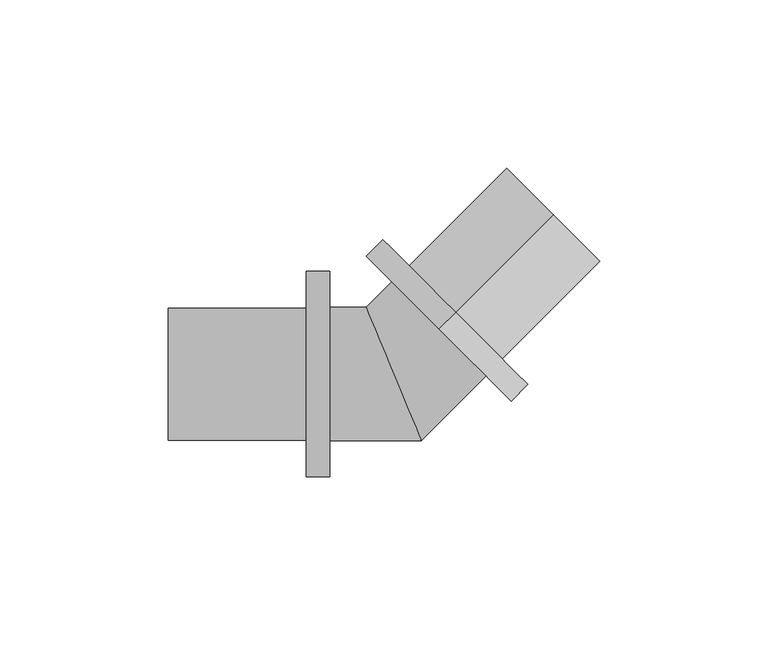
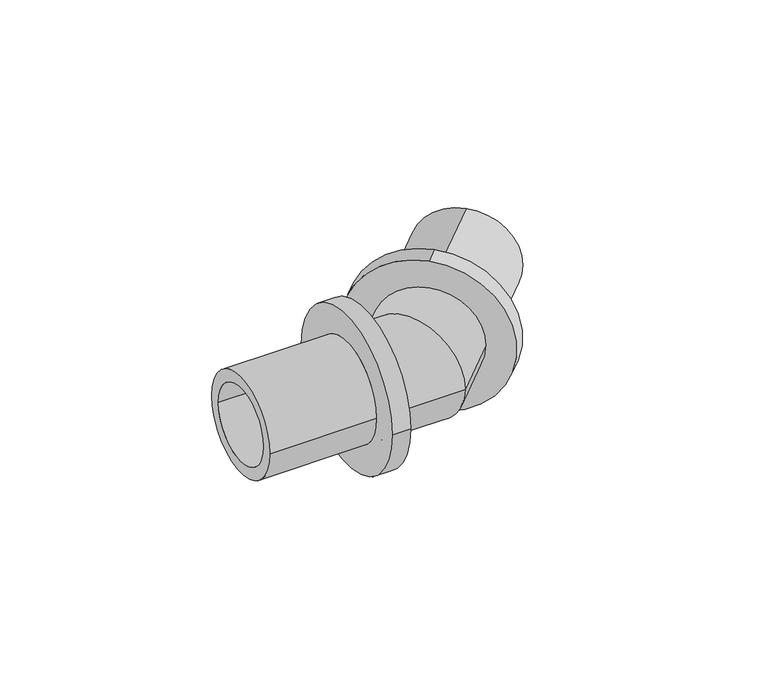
"""IFC4 building model written with IfcOpenShell, lengths in millimetres: pipe fitting geometry, RAUTITAN_Corner_LX : RTI LX C DN."""

from ifc_helpers import new_model, si_unit, frame, origin, place, context, project, spatial, polyline, circle_curve, ellipse_curve, source, transform, mapped, element, save
from ifc_brep_helpers import plane_surface, cylinder_surface, revolved_surface, advanced_brep


def pipe_fitting_f56030c5(model_context):
    return source(origin(), model_context, "Body", "AdvancedBrep", [
        advanced_brep(
        [(18.3847763, 18.3847763, 30.5), (18.3847763, 18.3847763, -30.5), (13.4350288, 13.4350288, -30.5), (13.4350288, 13.4350288, 30.5), (47.3761543, 47.3761543, 19.6), (47.3761543, 47.3761543, -19.6), (18.3847763, 18.3847763, -19.6), (18.3847763, 18.3847763, 19.6), (13.4350288, 13.4350288, 15.0), (13.4350288, 13.4350288, -15.0), (47.3761543, 47.3761543, -15.0), (47.3761543, 47.3761543, 15.0)],
        [
            (0, 1, circle_curve(frame((18.3847763, 18.3847763, 0.0), z_axis=(-0.7071067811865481, -0.707106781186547, 0.0), x_axis=(0.0, 0.0, -1.0)), 30.5)),
            (1, 2),
            (2, 3, circle_curve(frame((13.4350288, 13.4350288, 0.0), z_axis=(0.7071067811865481, 0.707106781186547, 0.0), x_axis=(0.0, 0.0, -1.0)), 30.5)),
            (3, 0),
            (4, 5, circle_curve(frame((47.3761543, 47.3761543, 0.0), z_axis=(-0.7071067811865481, -0.707106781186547, 0.0), x_axis=(0.0, 0.0, -1.0)), 19.6)),
            (5, 6),
            (6, 7, circle_curve(frame((18.3847763, 18.3847763, 0.0), z_axis=(0.7071067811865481, 0.707106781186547, 0.0), x_axis=(0.0, 0.0, -1.0)), 19.6)),
            (7, 4),
            (8, 9, circle_curve(frame((13.4350288, 13.4350288, 0.0), z_axis=(-0.7071067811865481, -0.707106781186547, 0.0), x_axis=(0.0, 0.0, -1.0)), 15.0)),
            (9, 10),
            (10, 11, circle_curve(frame((47.3761543, 47.3761543, 0.0), z_axis=(0.7071067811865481, 0.707106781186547, 0.0), x_axis=(0.0, 0.0, -1.0)), 15.0)),
            (11, 8),
            (1, 0, circle_curve(frame((18.3847763, 18.3847763, 0.0), z_axis=(-0.7071067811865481, -0.707106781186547, 0.0), x_axis=(0.0, 0.0, 1.0)), 30.5)),
            (3, 2, circle_curve(frame((13.4350288, 13.4350288, 0.0), z_axis=(0.7071067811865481, 0.707106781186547, 0.0), x_axis=(0.0, 0.0, 1.0)), 30.5)),
            (6, 7, circle_curve(frame((18.3847763, 18.3847763, 0.0), z_axis=(-0.7071067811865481, -0.707106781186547, 0.0), x_axis=(0.0, 0.0, 1.0)), 19.6)),
            (5, 4, circle_curve(frame((47.3761543, 47.3761543, 0.0), z_axis=(-0.7071067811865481, -0.707106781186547, 0.0), x_axis=(0.0, 0.0, 1.0)), 19.6)),
            (10, 11, circle_curve(frame((47.3761543, 47.3761543, 0.0), z_axis=(-0.7071067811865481, -0.707106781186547, 0.0), x_axis=(0.0, 0.0, 1.0)), 15.0)),
            (9, 8, circle_curve(frame((13.4350288, 13.4350288, 0.0), z_axis=(-0.7071067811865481, -0.707106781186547, 0.0), x_axis=(0.0, 0.0, 1.0)), 15.0)),
        ],
        [
            cylinder_surface(frame((13.4350288, 13.4350288, 0.0), z_axis=(0.7071067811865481, 0.707106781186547, 0.0), x_axis=(0.0, 0.0, -1.0)), 30.5),
            cylinder_surface(frame((13.4350288, 13.4350288, 0.0), z_axis=(0.7071067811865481, 0.707106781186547, 0.0), x_axis=(0.0, 0.0, -1.0)), 19.6),
            revolved_surface(polyline([(47.37615430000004, 47.37615429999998, -15.0), (13.4350288, 13.4350288, -15.0)]), (13.4350288, 13.4350288, 0.0), (0.7071067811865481, 0.707106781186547, 0.0)),
            cylinder_surface(frame((13.4350288, 13.4350288, 0.0), z_axis=(0.7071067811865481, 0.707106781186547, 0.0), x_axis=(0.0, 0.0, 1.0)), 30.5),
            plane_surface(frame((18.3847763, 18.3847763, 0.0), z_axis=(0.7071067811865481, 0.707106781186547, 0.0), x_axis=(0.0, 0.0, 1.0))),
            cylinder_surface(frame((13.4350288, 13.4350288, 0.0), z_axis=(0.7071067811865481, 0.707106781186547, 0.0), x_axis=(0.0, 0.0, 1.0)), 19.6),
            plane_surface(frame((47.3761543, 47.3761543, 0.0), z_axis=(0.7071067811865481, 0.707106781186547, 0.0), x_axis=(0.0, 0.0, 1.0))),
            revolved_surface(polyline([(47.37615430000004, 47.37615429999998, 15.0), (13.4350288, 13.4350288, 15.0)]), (13.4350288, 13.4350288, 0.0), (0.7071067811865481, 0.707106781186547, 0.0)),
            plane_surface(frame((13.4350288, 13.4350288, 0.0), z_axis=(-0.7071067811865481, -0.707106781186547, 0.0), x_axis=(0.0, 0.0, 1.0))),
        ],
        [
            (0, [[1, 2, 3, 4]]),
            (1, [[5, 6, 7, 8]]),
            (2, [[9, 10, 11, 12]]),
            (3, [[13, -4, 14, -2]]),
            (4, [[-13, -1], [15, -7]]),
            (5, [[16, -8, -15, -6]]),
            (6, [[-16, -5], [17, -11]]),
            (7, [[18, -12, -17, -10]]),
            (8, [[-14, -3], [-18, -9]]),
        ],
    ),
        advanced_brep(
        [(-26.0, -30.5, 0.0), (-26.0, 30.5, 0.0), (-19.0, 30.5, 0.0), (-19.0, -30.5, 0.0), (-67.0, -19.6, 0.0), (-67.0, 19.6, 0.0), (-26.0, 19.6, 0.0), (-26.0, -19.6, 0.0), (-19.0, -15.0, 0.0), (-19.0, 15.0, 0.0), (-67.0, 15.0, 0.0), (-67.0, -15.0, 0.0)],
        [
            (0, 1, circle_curve(frame((-26.0, 0.0, 0.0), z_axis=(1.0, 0.0, 0.0), x_axis=(0.0, 1.0, 0.0)), 30.5)),
            (1, 2),
            (2, 3, circle_curve(frame((-19.0, 0.0, 0.0), z_axis=(-1.0, 0.0, 0.0), x_axis=(0.0, 1.0, 0.0)), 30.5)),
            (3, 0),
            (4, 5, circle_curve(frame((-67.0, 0.0, 0.0), z_axis=(1.0, 0.0, 0.0), x_axis=(0.0, 1.0, 0.0)), 19.6)),
            (5, 6),
            (6, 7, circle_curve(frame((-26.0, 0.0, 0.0), z_axis=(-1.0, 0.0, 0.0), x_axis=(0.0, 1.0, 0.0)), 19.6)),
            (7, 4),
            (8, 9, circle_curve(frame((-19.0, 0.0, 0.0), z_axis=(1.0, 0.0, 0.0), x_axis=(0.0, 1.0, 0.0)), 15.0)),
            (9, 10),
            (10, 11, circle_curve(frame((-67.0, 0.0, 0.0), z_axis=(-1.0, 0.0, 0.0), x_axis=(0.0, 1.0, 0.0)), 15.0)),
            (11, 8),
            (1, 0, circle_curve(frame((-26.0, 0.0, 0.0), z_axis=(1.0, 0.0, 0.0), x_axis=(0.0, -1.0, 0.0)), 30.5)),
            (3, 2, circle_curve(frame((-19.0, 0.0, 0.0), z_axis=(-1.0, 0.0, 0.0), x_axis=(0.0, -1.0, 0.0)), 30.5)),
            (6, 7, circle_curve(frame((-26.0, 0.0, 0.0), z_axis=(1.0, 0.0, 0.0), x_axis=(0.0, -1.0, 0.0)), 19.6)),
            (5, 4, circle_curve(frame((-67.0, 0.0, 0.0), z_axis=(1.0, 0.0, 0.0), x_axis=(0.0, -1.0, 0.0)), 19.6)),
            (10, 11, circle_curve(frame((-67.0, 0.0, 0.0), z_axis=(1.0, 0.0, 0.0), x_axis=(0.0, -1.0, 0.0)), 15.0)),
            (9, 8, circle_curve(frame((-19.0, 0.0, 0.0), z_axis=(1.0, 0.0, 0.0), x_axis=(0.0, -1.0, 0.0)), 15.0)),
        ],
        [
            cylinder_surface(frame((-19.0, 0.0, 0.0), z_axis=(-1.0, 0.0, 0.0), x_axis=(0.0, 1.0, 0.0)), 30.5),
            cylinder_surface(frame((-19.0, 0.0, 0.0), z_axis=(-1.0, 0.0, 0.0), x_axis=(0.0, 1.0, 0.0)), 19.6),
            revolved_surface(polyline([(-67.0, 15.0, 0.0), (-19.0, 15.0, 0.0)]), (-19.0, 0.0, 0.0), (-1.0, 0.0, 0.0)),
            cylinder_surface(frame((-19.0, 0.0, 0.0), z_axis=(-1.0, 0.0, 0.0), x_axis=(0.0, -1.0, 0.0)), 30.5),
            plane_surface(frame((-26.0, 0.0, 0.0), z_axis=(-1.0, 0.0, 0.0), x_axis=(0.0, -1.0, 0.0))),
            cylinder_surface(frame((-19.0, 0.0, 0.0), z_axis=(-1.0, 0.0, 0.0), x_axis=(0.0, -1.0, 0.0)), 19.6),
            plane_surface(frame((-67.0, 0.0, 0.0), z_axis=(-1.0, 0.0, 0.0), x_axis=(0.0, -1.0, 0.0))),
            revolved_surface(polyline([(-67.0, -15.0, 0.0), (-19.0, -15.0, 0.0)]), (-19.0, 0.0, 0.0), (-1.0, 0.0, 0.0)),
            plane_surface(frame((-19.0, 0.0, 0.0), z_axis=(1.0, 0.0, 0.0), x_axis=(0.0, -1.0, 0.0))),
        ],
        [
            (0, [[1, 2, 3, 4]]),
            (1, [[5, 6, 7, 8]]),
            (2, [[9, 10, 11, 12]]),
            (3, [[13, -4, 14, -2]]),
            (4, [[-13, -1], [15, -7]]),
            (5, [[16, -8, -15, -6]]),
            (6, [[-16, -5], [17, -11]]),
            (7, [[18, -12, -17, -10]]),
            (8, [[-14, -3], [-18, -9]]),
        ],
    ),
        advanced_brep(
        [(-19.0, -19.8, 0.0), (-19.0, 19.8, 0.0), (-19.0, -15.0, 0.0), (-19.0, 15.0, 0.0), (-6.2132034, 15.0, 0.0), (6.2132034, -15.0, 0.0), (27.4357431, -0.5656854, 0.0), (-0.5656854, 27.4357431, 0.0), (24.0416306, 2.8284271, 0.0), (2.8284271, 24.0416306, 0.0), (8.2014285, -19.8, 0.0), (-8.2014285, 19.8, 0.0)],
        [
            (0, 1, circle_curve(frame((-19.0, 0.0, 0.0), z_axis=(-1.0, 0.0, 0.0), x_axis=(0.0, 1.0, 0.0)), 19.8)),
            (1, 0, circle_curve(frame((-19.0, 0.0, 0.0), z_axis=(-1.0, 0.0, 0.0), x_axis=(0.0, 1.0, 0.0)), 19.8)),
            (2, 3, circle_curve(frame((-19.0, 0.0, 0.0), z_axis=(1.0, 0.0, 0.0), x_axis=(0.0, 1.0, 0.0)), 15.0)),
            (3, 2, circle_curve(frame((-19.0, 0.0, 0.0), z_axis=(1.0, 0.0, 0.0), x_axis=(0.0, 1.0, 0.0)), 15.0)),
            (3, 4),
            (4, 5, ellipse_curve(frame((0.0, 0.0, 0.0), z_axis=(0.9238795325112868, 0.38268343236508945, 0.0), x_axis=(0.3826834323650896, -0.923879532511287, 0.0)), 16.235883, 15.0)),
            (5, 2),
            (5, 4, ellipse_curve(frame((0.0, 0.0, 0.0), z_axis=(0.9238795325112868, 0.38268343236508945, 0.0), x_axis=(0.3826834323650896, -0.923879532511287, 0.0)), 16.235883, 15.0)),
            (6, 7, circle_curve(frame((13.4350288, 13.4350288, 0.0), z_axis=(0.707106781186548, 0.707106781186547, 0.0), x_axis=(-0.707106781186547, 0.707106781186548, 0.0)), 19.8)),
            (7, 6, circle_curve(frame((13.4350288, 13.4350288, 0.0), z_axis=(0.707106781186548, 0.707106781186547, 0.0), x_axis=(-0.707106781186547, 0.707106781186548, 0.0)), 19.8)),
            (8, 9, circle_curve(frame((13.4350288, 13.4350288, 0.0), z_axis=(-0.707106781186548, -0.707106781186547, 0.0), x_axis=(-0.707106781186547, 0.707106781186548, 0.0)), 15.0)),
            (9, 8, circle_curve(frame((13.4350288, 13.4350288, 0.0), z_axis=(-0.707106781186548, -0.707106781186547, 0.0), x_axis=(-0.707106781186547, 0.707106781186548, 0.0)), 15.0)),
            (4, 9),
            (8, 5),
            (0, 10),
            (10, 11, ellipse_curve(frame((0.0, 0.0, 0.0), z_axis=(-0.9238795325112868, -0.38268343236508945, 0.0), x_axis=(-0.3826834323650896, 0.923879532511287, 0.0)), 21.4313656, 19.8)),
            (11, 1),
            (11, 10, ellipse_curve(frame((0.0, 0.0, 0.0), z_axis=(-0.9238795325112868, -0.38268343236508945, 0.0), x_axis=(-0.3826834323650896, 0.923879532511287, 0.0)), 21.4313656, 19.8)),
            (10, 6),
            (7, 11),
        ],
        [
            plane_surface(frame((-19.0, 0.0, 0.0), z_axis=(-1.0, 0.0, 0.0), x_axis=(0.0, 0.0, 1.0))),
            revolved_surface(polyline([(6.213203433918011, 15.0, 0.0), (-19.0, 15.0, 0.0)]), (-19.0, 0.0, 0.0), (1.0, 0.0, 0.0)),
            plane_surface(frame((13.4350288, 13.4350288, 0.0), z_axis=(0.707106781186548, 0.707106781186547, 0.0), x_axis=(0.0, 0.0, 1.0))),
            revolved_surface(polyline([(2.828427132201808, 24.041630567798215, 0.0), (-15.000000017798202, 6.213203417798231, 0.0)]), (0.0, 0.0, 0.0), (0.707106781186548, 0.707106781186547, 0.0)),
            cylinder_surface(frame((-19.0, 0.0, 0.0), z_axis=(-1.0, 0.0, 0.0), x_axis=(0.0, 1.0, 0.0)), 19.8),
            cylinder_surface(frame((0.0, 0.0, 0.0), z_axis=(-0.707106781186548, -0.707106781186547, 0.0), x_axis=(-0.707106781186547, 0.707106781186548, 0.0)), 19.8),
        ],
        [
            (0, [[1, 2], [3, 4]]),
            (1, [[-4, 5, 6, 7]]),
            (1, [[-3, -7, 8, -5]]),
            (2, [[9, 10], [11, 12]]),
            (3, [[-6, 13, -11, 14]]),
            (3, [[-8, -14, -12, -13]]),
            (4, [[-1, 15, 16, 17]]),
            (4, [[-2, -17, 18, -15]]),
            (5, [[-16, 19, -10, 20]]),
            (5, [[-18, -20, -9, -19]]),
        ],
    ),
    ])


if __name__ == "__main__":
    model = new_model("IFC4")
    model_context = context("Model", 3, world=origin())
    ifc_project = project(units=[si_unit("LENGTHUNIT", "METRE", prefix="MILLI")], contexts=[model_context])
    site = spatial("IfcSite", under=ifc_project)
    building = spatial("IfcBuilding", under=site)
    placement = place(None, origin())
    pipe_fitting_shape = pipe_fitting_f56030c5(model_context)
    element("IfcPipeFitting", 1, ObjectType="RAUTITAN_Corner_LX : RTI LX C DN", at=placement, inside=building, context=model_context, shape_type="MappedRepresentation", body=[
        mapped(pipe_fitting_shape, transform((0.0, 0.0, 0.0), x_axis=(1.0, 0.0, 0.0), y_axis=(0.0, 1.0, 0.0), z_axis=(0.0, 0.0, 1.0))),
    ])
    save(model, "model.ifc")
